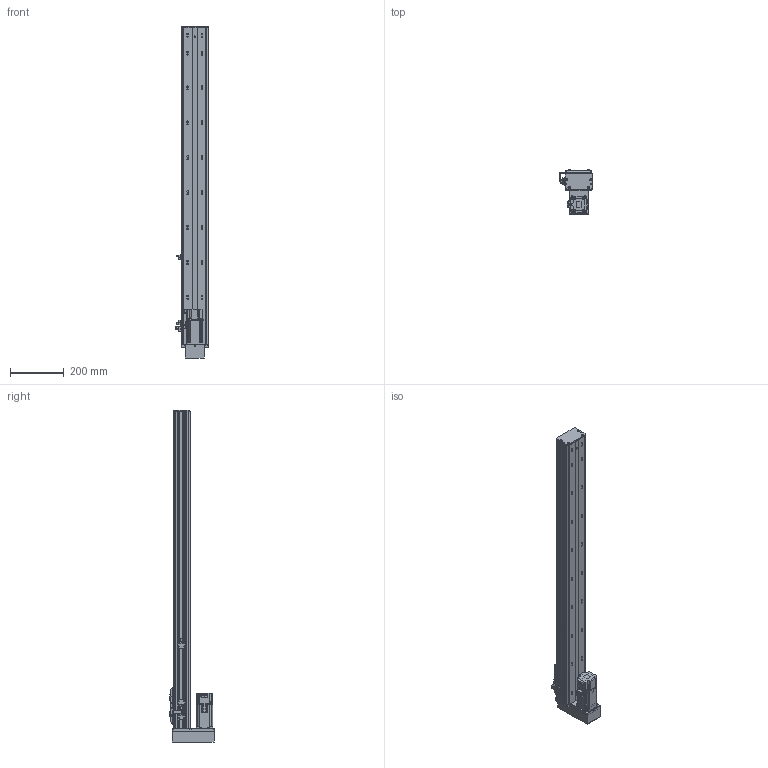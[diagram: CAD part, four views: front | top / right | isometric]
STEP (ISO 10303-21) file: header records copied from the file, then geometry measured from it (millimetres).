
FILE_DESCRIPTION (( 'STEP AP203' ), '1' );
FILE_NAME ('BOSW100-1000-1610-1P-DM-M400W-O-S3（方程式2016）.step', '2020-10-10T06:49:45', ( '' ), ( '' ), 'SwSTEP 2.0', 'SolidWorks 2016', '' );
FILE_SCHEMA (( 'CONFIG_CONTROL_DESIGN' ));
Length unit declared in the file: millimetre
Products named in the file (14): BOSW&TW-100-俋离覜茼え; BOSW-100-1P-DM-1000諦誧芞; BOSW-100-綴裔啣; 放大器内置U型微型光电传感器PM-L65; 俋境嫖覜嘐隅啣; BOS-100-DM鎮湛假蚾啣; BOSW-100-1P-DM-宽轨-钢带-1000客户图纸; BOSW100-1000-1610-1P-DM-M400W-O-S3（方程式2016）; S400W(SMA-L040); BOSW&TW-100-詩湍揤沭(陔賦凳); BOSW-100-1P-DM-宽轨-侧板-1000客户图纸; 新结构AIMSW-100-1P-宽&高轨共用-滑动座上组件; BOSW&TW-100-1P-賑雄釱欶; BOS100-DM鎮湛欶
Assembly tree (19 placements, depth 2):
  BOSW100-1000-1610-1P-DM-M400W-O-S3（方程式2016）
    BOSW-100-1P-DM-1000諦誧芞
    BOSW-100-綴裔啣
    新结构AIMSW-100-1P-宽&高轨共用-滑动座上组件
    S400W(SMA-L040)
    BOSW&TW-100-詩湍揤沭(陔賦凳)  x2
    BOSW&TW-100-1P-賑雄釱欶
    BOSW&TW-100-俋离覜茼え
    俋境嫖覜嘐隅啣  x3
    放大器内置U型微型光电传感器PM-L65  x3
    BOSW-100-1P-DM-宽轨-侧板-1000客户图纸  x2
    BOSW-100-1P-DM-宽轨-钢带-1000客户图纸
    BOS100-DM鎮湛欶
    BOS-100-DM鎮湛假蚾啣
Bounding box: 120.9 x 164 x 1236 mm (x, y, z)
Volume: 2655028.6 mm3; surface area: 1222250.6 mm2
Topology: 19 solids, 19 shells, 2596 faces, 6866 edges, 4393 vertices
Faces by surface type: plane 1273, cylinder 847, bspline 271, cone 157, torus 36, sphere 12
Entity records: 71835 total; most frequent: CARTESIAN_POINT 21328, ORIENTED_EDGE 10288, DIRECTION 9988, EDGE_CURVE 5144, AXIS2_PLACEMENT_3D 3552, VERTEX_POINT 3295, LINE 2884, VECTOR 2884
